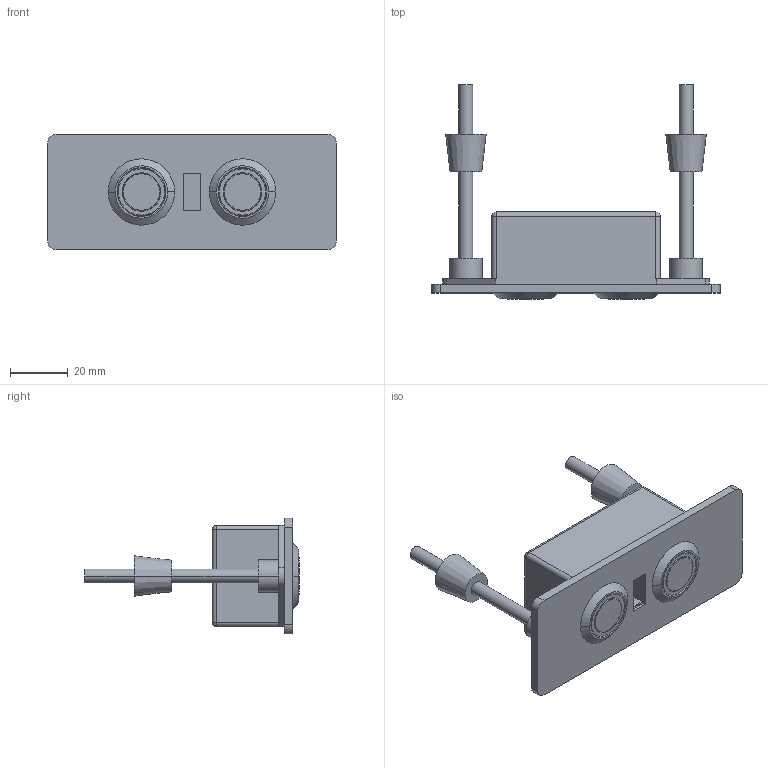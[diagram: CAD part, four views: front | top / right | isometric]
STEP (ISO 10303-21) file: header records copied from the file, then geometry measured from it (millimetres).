
FILE_DESCRIPTION((''),'2;1');
FILE_NAME('MSBR-2','2016-06-03T',('lily'),(''),'PRO/ENGINEER BY PARAMETRIC TECHNOLOGY CORPORATION, 2014200','PRO/ENGINEER BY PARAMETRIC TECHNOLOGY CORPORATION, 2014200','');
FILE_SCHEMA(('CONFIG_CONTROL_DESIGN'));
Length unit declared in the file: metre
Products named in the file (1): MSBR-2
Bounding box: 100 x 74.1 x 40 mm (x, y, z)
Volume: 58180.5 mm3; surface area: 31481.8 mm2
Topology: 1 solids, 4 shells, 195 faces, 458 edges, 299 vertices
Faces by surface type: plane 98, cylinder 71, cone 14, torus 8, sphere 4
Entity records: 5761 total; most frequent: CARTESIAN_POINT 1050, DIRECTION 1047, ORIENTED_EDGE 908, EDGE_CURVE 454, AXIS2_PLACEMENT_3D 402, VERTEX_POINT 299, VECTOR 243, LINE 243
